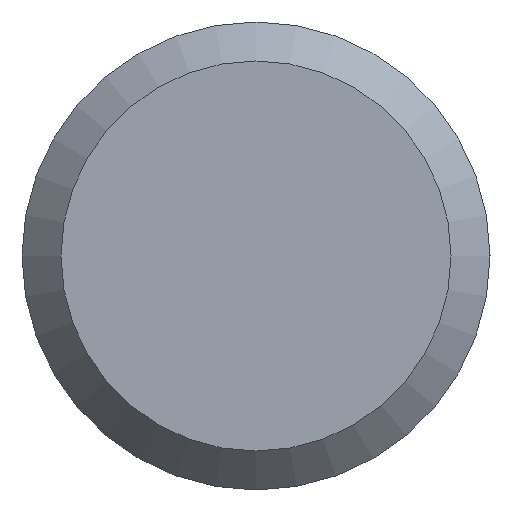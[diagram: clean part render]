
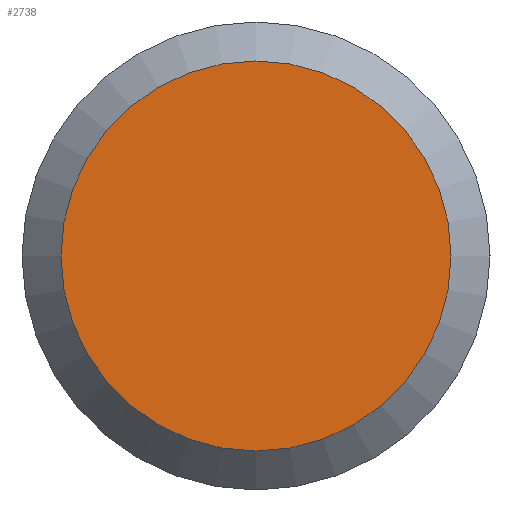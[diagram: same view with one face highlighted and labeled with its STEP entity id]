
A CAD part, left-side view. The second image highlights one B-rep face of the part: STEP entity #2738.
In plain terms, the highlighted planar face has unit normal (-1, 0, 0).
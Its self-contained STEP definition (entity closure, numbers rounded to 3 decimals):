
#989=PLANE('',#2522);
#1031=ORIENTED_EDGE('',*,*,#1395,.F.);
#1211=CIRCLE('',#2521,2.5);
#1303=VERTEX_POINT('',#2242);
#1395=EDGE_CURVE('',#1303,#1303,#1211,.T.);
#1491=EDGE_LOOP('',(#1031));
#1675=FACE_BOUND('',#1491,.T.);
#1866=DIRECTION('',(1.,0.,0.));
#1867=DIRECTION('',(0.,0.,-2.5));
#1868=DIRECTION('',(-1.,0.,0.));
#1869=DIRECTION('',(0.,1.,0.));
#2242=CARTESIAN_POINT('',(94.114,5.282,0.));
#2243=CARTESIAN_POINT('',(94.114,2.782,0.));
#2244=CARTESIAN_POINT('',(94.114,2.782,0.));
#2521=AXIS2_PLACEMENT_3D('',#2243,#1866,#1867);
#2522=AXIS2_PLACEMENT_3D('',#2244,#1868,#1869);
#2738=ADVANCED_FACE('',(#1675),#989,.T.);
